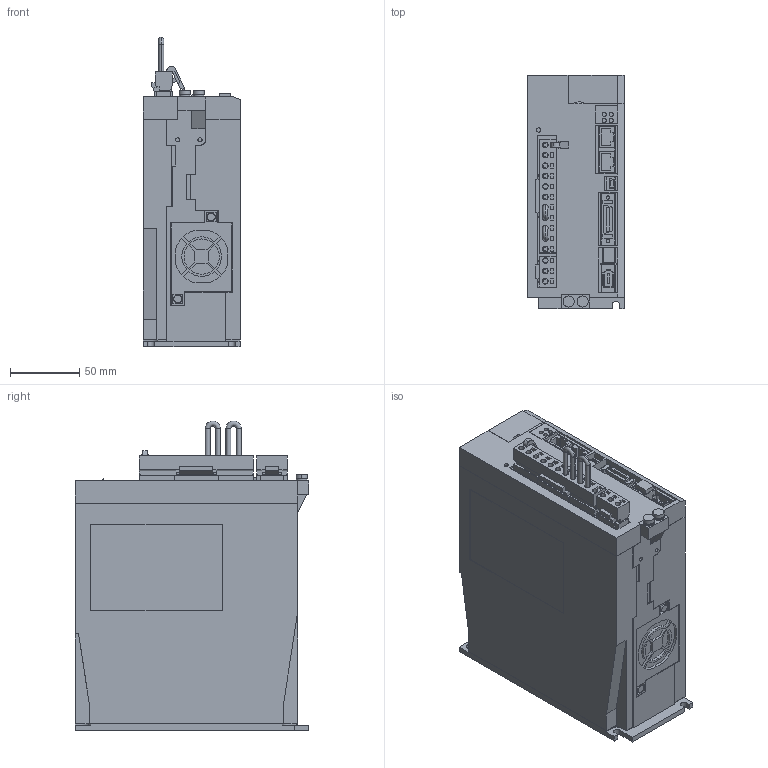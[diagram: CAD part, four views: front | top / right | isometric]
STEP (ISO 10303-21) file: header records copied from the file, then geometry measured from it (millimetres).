
FILE_DESCRIPTION (( 'STEP AP203' ), '1' );
FILE_NAME ('sgd7s_7r6aa0a.STEP', '2015-06-05T23:42:28', ( '匠エンジニアリング山之内' ), ( 'TAKUMI-Engniaring' ), 'SwSTEP 2.0', 'SolidWorks 2006303', '' );
FILE_SCHEMA (( 'CONFIG_CONTROL_DESIGN' ));
Products named in the file (11): sgd7s_7r6aa0a_pin; sgd7s_7r6aa0a_cable; sgd7s_7r6aa0a_cover3; sgd7s_7r6aa0a; sgd7s_7r6aa0a_base; sgd7s_7r6aa0a_connector; sgd7s_7r6aa0a_connector_2; sgd7s_7r6aa0a_connector_1; sgd7s_7r6aa0a_cover; sgd7s_7r6aa0a_cover2; sgd7s_7r6aa0a_connector_3
Assembly tree (12 placements, depth 3):
  sgd7s_7r6aa0a
    sgd7s_7r6aa0a_base
    sgd7s_7r6aa0a_connector_3
    sgd7s_7r6aa0a_cover
    sgd7s_7r6aa0a_connector
      sgd7s_7r6aa0a_pin
      sgd7s_7r6aa0a_cable  x2
      sgd7s_7r6aa0a_connector_2
    sgd7s_7r6aa0a_connector_1
    sgd7s_7r6aa0a_cover2  x2
    sgd7s_7r6aa0a_cover3
Bounding box: 70.5 x 168 x 223 mm (x, y, z)
Volume: 1988615.9 mm3; surface area: 152576 mm2
Topology: 11 solids, 11 shells, 1793 faces, 4684 edges, 3089 vertices
Faces by surface type: plane 1585, cylinder 203, torus 4, sphere 1
Entity records: 54424 total; most frequent: CARTESIAN_POINT 9415, ORIENTED_EDGE 9208, DIRECTION 8555, EDGE_CURVE 4604, VECTOR 4201, LINE 4201, VERTEX_POINT 3037, AXIS2_PLACEMENT_3D 2177
